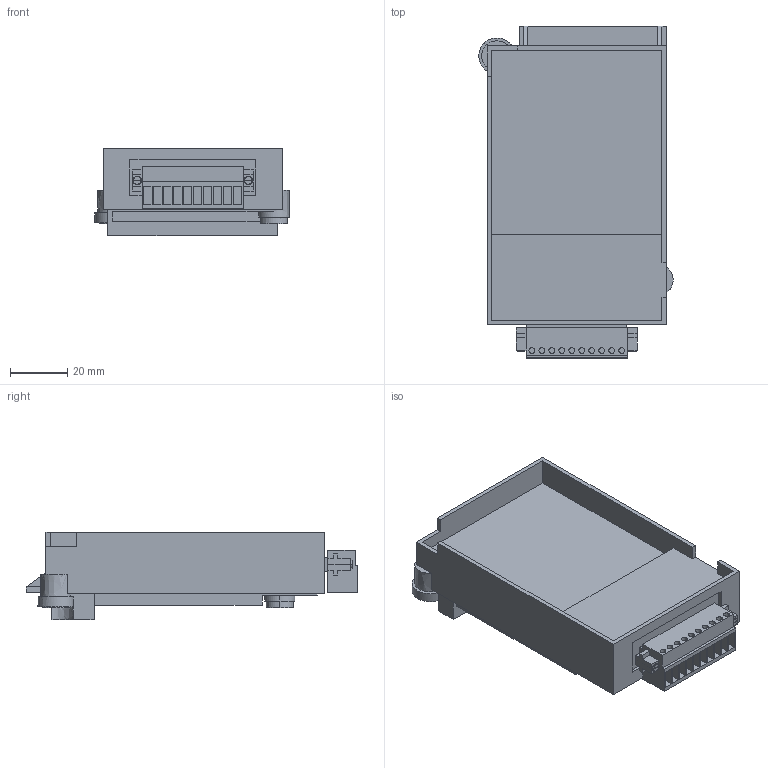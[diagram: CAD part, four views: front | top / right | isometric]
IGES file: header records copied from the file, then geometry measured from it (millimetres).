
Start section:  PTC IGES file: gt15_rs4_te.igs
Global section: file name: gt15_rs4_te.igs; native system: Pro/ENGINEER by Parametric Technology Corporation; preprocessor: 2006510; author: QR87550; organization: Unknown; date: 20100126.112043; units: millimetre
Bounding box: 68.1 x 116.4 x 30.6 mm (x, y, z)
Volume: 113103.4 mm3; surface area: 29290.7 mm2
Topology: 3 solids, 3 shells, 220 faces, 579 edges, 384 vertices
Faces by surface type: bspline 220
